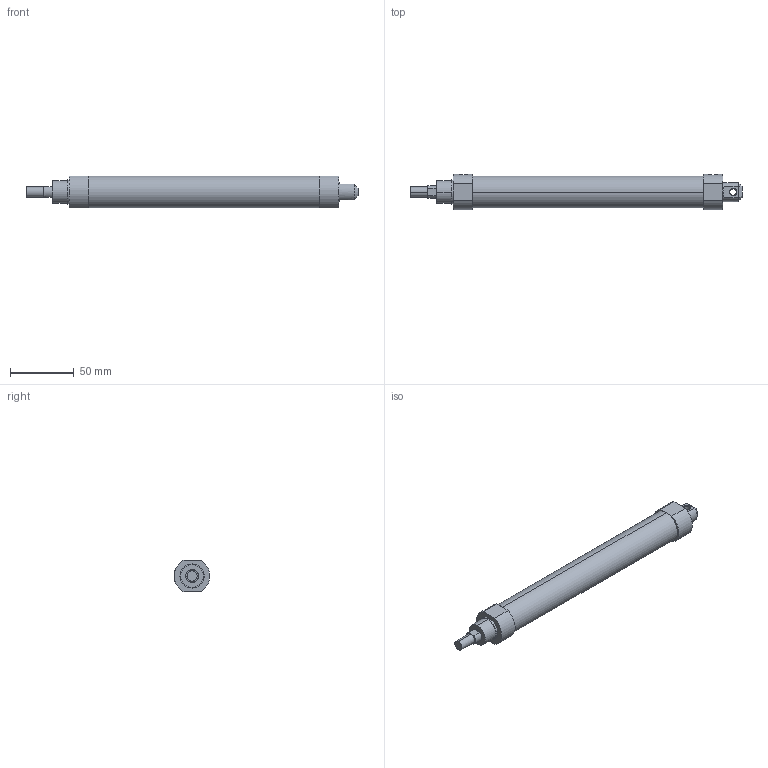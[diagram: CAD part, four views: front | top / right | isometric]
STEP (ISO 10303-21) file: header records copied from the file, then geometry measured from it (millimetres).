
FILE_DESCRIPTION (( 'STEP AP203' ), '1' );
FILE_NAME ('J#2-20-150-C.STEP', '2016-03-08T07:06:04', ( '' ), ( '' ), 'SwSTEP 2.0', 'SolidWorks 2014', '' );
FILE_SCHEMA (( 'CONFIG_CONTROL_DESIGN' ));
Length unit declared in the file: millimetre
Products named in the file (1): J#2-20-150-C
Bounding box: 261 x 27.95 x 25 mm (x, y, z)
Volume: 112038.6 mm3; surface area: 21045.4 mm2
Topology: 1 solids, 1 shells, 56 faces, 124 edges, 76 vertices
Faces by surface type: plane 28, cylinder 22, cone 6
Entity records: 1751 total; most frequent: CARTESIAN_POINT 401, DIRECTION 284, ORIENTED_EDGE 248, EDGE_CURVE 124, AXIS2_PLACEMENT_3D 111, VERTEX_POINT 76, EDGE_LOOP 64, LINE 62
